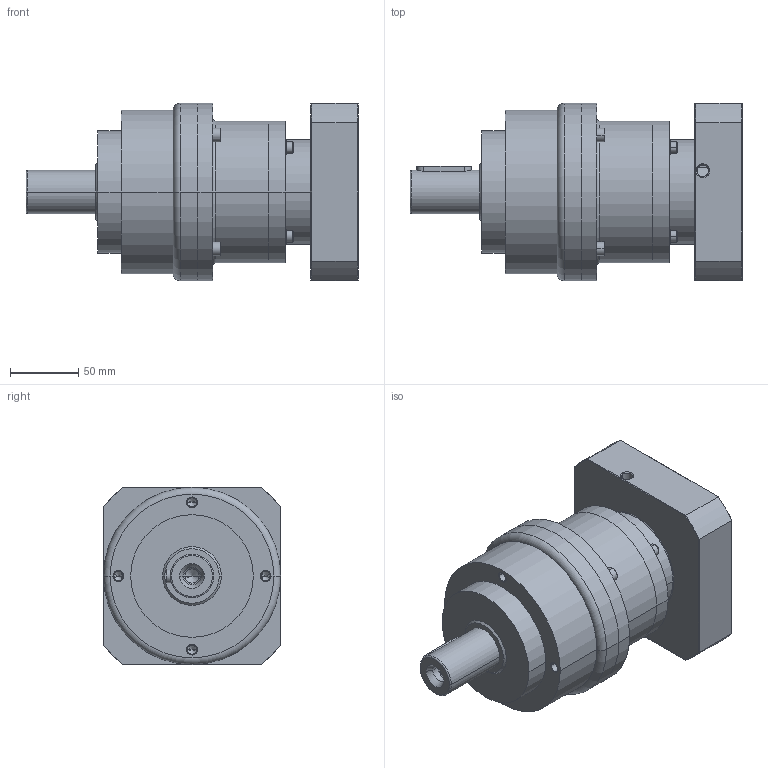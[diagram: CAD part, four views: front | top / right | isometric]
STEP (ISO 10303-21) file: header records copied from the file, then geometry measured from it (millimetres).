
FILE_DESCRIPTION((''),'2;1');
FILE_NAME('AE1202-P0403302001_ASM','2014-09-04T',('d01544'),('APEX'),'PRO/ENGINEER BY PARAMETRIC TECHNOLOGY CORPORATION, 2008410','PRO/ENGINEER BY PARAMETRIC TECHNOLOGY CORPORATION, 2008410','');
FILE_SCHEMA(('CONFIG_CONTROL_DESIGN'));
Length unit declared in the file: millimetre
Products named in the file (10): AE120-2; P244; 220120705; RG-SET3-4_ASM; P1302300001; 233100003; 220100606; COVER-SET-3_ASM; P0403302001; AE1202-P0403302001_ASM
Assembly tree (18 placements, depth 3):
  AE1202-P0403302001_ASM
    AE120-2
    RG-SET3-4_ASM
      P244
      220120705  x4
    COVER-SET-3_ASM
      P1302300001
      233100003  x4
      220100606  x4
    P0403302001
Bounding box: 243.5 x 130 x 130 mm (x, y, z)
Volume: 1847890.3 mm3; surface area: 212220.5 mm2
Topology: 16 solids, 26 shells, 535 faces, 1172 edges, 703 vertices
Faces by surface type: cylinder 219, plane 192, cone 92, torus 32
Entity records: 9650 total; most frequent: DIRECTION 1810, CARTESIAN_POINT 1780, ORIENTED_EDGE 1404, AXIS2_PLACEMENT_3D 752, EDGE_CURVE 722, VERTEX_POINT 451, EDGE_LOOP 403, CIRCLE 381
